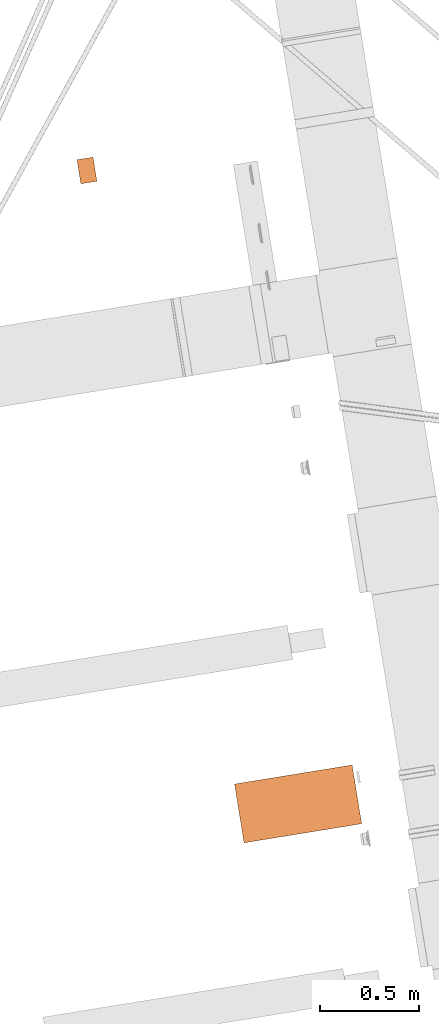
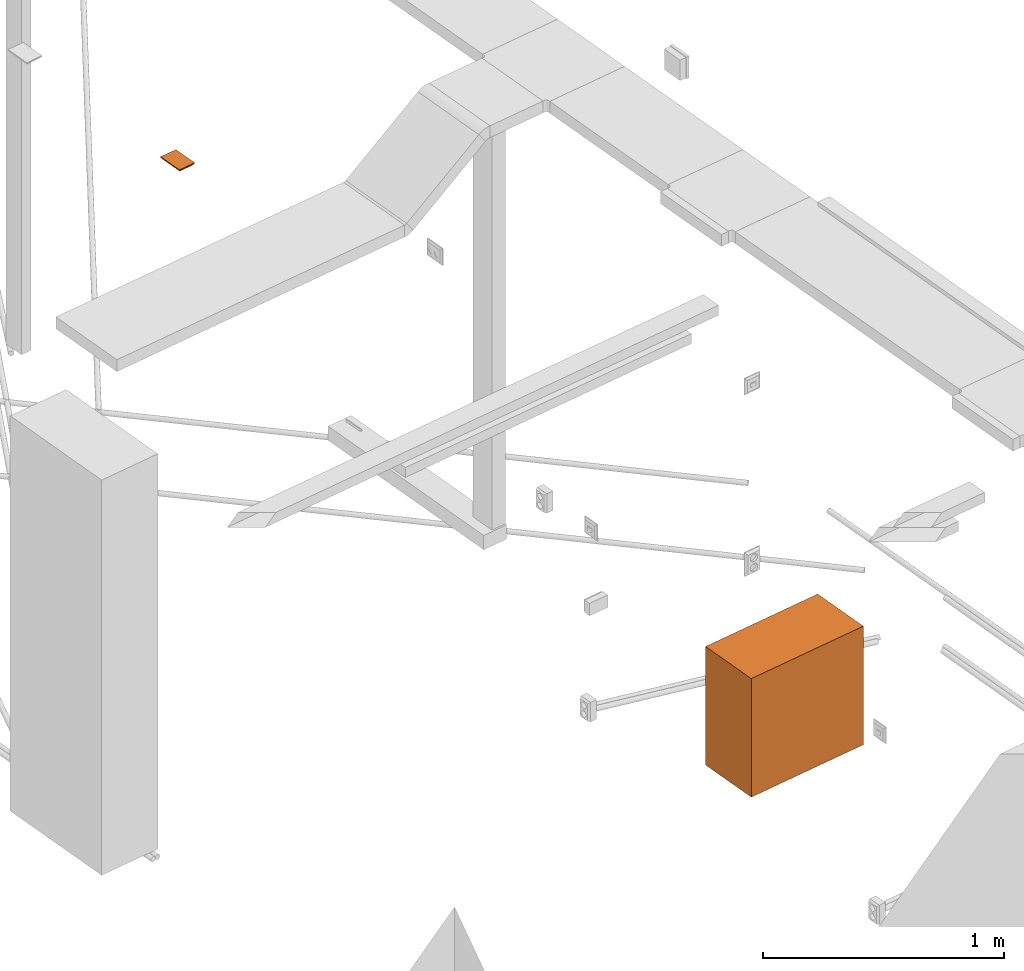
# One storey, part 10 of 33: 2 proxies.
"""IFC2X3 building model written with IfcOpenShell, lengths in millimetres."""

from ifc_helpers import new_model, entity, si_unit, converted_unit, derived_unit, direction, frame, origin, origin_with_axes, origin_2d_with_axis, place, context, subcontext, project, spatial, rectangle, extrude, faceted_brep, source, transform, mapped, material, type_object, element, save


model = new_model("IFC2X3")

# Units and contexts
plan_context = context("Plan", 3, precision=1e-05, world=origin_with_axes())
model_context = context("Model", 3, precision=0.01, world=origin(), true_north=direction((6.12323399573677e-17, 1.0)))
body_context = subcontext(model_context, "Body", "Model", "MODEL_VIEW")
ifc_project = project(units=[converted_unit("PLANEANGLEUNIT", "DEGREE", entity("IfcPositiveLengthMeasure", 0.0174532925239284), si_unit("PLANEANGLEUNIT", "RADIAN"), dimensions=[0, 0, 0, 0, 0, 0, 0]), si_unit("AREAUNIT", "SQUARE_METRE"), si_unit("LENGTHUNIT", "METRE", prefix="MILLI"), si_unit("MASSUNIT", "GRAM", prefix="KILO"), si_unit("POWERUNIT", "WATT"), si_unit("PRESSUREUNIT", "PASCAL", prefix="KILO"), si_unit("FORCEUNIT", "NEWTON", prefix="KILO"), si_unit("ELECTRICVOLTAGEUNIT", "VOLT"), si_unit("ELECTRICCURRENTUNIT", "AMPERE"), si_unit("THERMODYNAMICTEMPERATUREUNIT", "DEGREE_CELSIUS"), si_unit("TIMEUNIT", "SECOND"), si_unit("VOLUMEUNIT", "CUBIC_METRE"), derived_unit("LINEARVELOCITYUNIT", [(si_unit("LENGTHUNIT", "METRE"), 1), (si_unit("TIMEUNIT", "SECOND"), -1)]), derived_unit("VOLUMETRICFLOWRATEUNIT", [(si_unit("VOLUMEUNIT", "CUBIC_METRE"), 1), (si_unit("TIMEUNIT", "SECOND"), -1)]), derived_unit("THERMALTRANSMITTANCEUNIT", [(si_unit("POWERUNIT", "WATT"), 1), (si_unit("THERMODYNAMICTEMPERATUREUNIT", "KELVIN"), -1), (si_unit("AREAUNIT", "SQUARE_METRE"), -1)]), derived_unit("SOUNDPRESSUREUNIT", [(si_unit("PRESSUREUNIT", "PASCAL"), 1)])], contexts=[model_context, plan_context])

# Site, building, storey
site_placement = place(None, frame((-0.219946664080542, 0.12226179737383, 0.0), z_axis=(0.0, 0.0, 1.0), x_axis=(-0.160236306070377, 0.987078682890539, 0.0)))
site = spatial("IfcSite", under=ifc_project, at=site_placement, Name="Default", CompositionType="ELEMENT")
building_placement = place(site_placement, origin_with_axes())
building = spatial("IfcBuilding", under=site, at=building_placement, CompositionType="ELEMENT")
storey_placement = place(building_placement, frame((0.0, 0.0, 59000.0), z_axis=(0.0, 0.0, 1.0), x_axis=(1.0, 0.0, 0.0)))
storey = spatial("IfcBuildingStorey", under=building, at=storey_placement, Name="Nivå F", CompositionType="ELEMENT", Elevation=59000.0)

# Proxies
ifc_material = material(Name="<Unnamed>")
building_element_proxy_type_1 = type_object("IfcBuildingElementProxyType", Name="El-ford-stativ:El-ford-stativ_001", PredefinedType="NOTDEFINED", material=ifc_material)
shared_shape_1 = source(origin(), body_context, "Body", "SweptSolid", [
    extrude(rectangle(XDim=300.000011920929, YDim=600.000023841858, at=origin_2d_with_axis()), frame((0.0, 150.000005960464, 0.0), z_axis=(0.0, 0.0, 1.0), x_axis=(0.0, 1.0, 0.0)), (0.0, 0.0, 1.0), 600.000023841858),
])
proxy_1_placement = place(storey_placement, frame((768943.619644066, -503502.476355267, 999.999988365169), z_axis=(0.0, 0.0, 1.0), x_axis=(0.0, 1.0, 0.0)))
element("IfcBuildingElementProxy", 1, at=proxy_1_placement, inside=storey, type_object=building_element_proxy_type_1, material=ifc_material, Name="El-ford-stativ:El-ford-stativ_001", ObjectType="El-ford-stativ:El-ford-stativ_001", context=body_context, shape_type="MappedRepresentation", body=[
    mapped(shared_shape_1, transform((0.0, 0.0, 0.0), scale=1.0)),
])
building_element_proxy_type_2 = type_object("IfcBuildingElementProxyType", Name="Dobbel stikk i tak m_boks 2P+J PH:Earthed reces socket c2", PredefinedType="NOTDEFINED", material=ifc_material)
shared_shape_2 = source(origin(), body_context, "Body", "Brep", [
    faceted_brep([(25.250000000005, -18.3000000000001, -17.8944271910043), (25.250000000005, -18.5954451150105, -17.489897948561), (25.250000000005, -18.7000000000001, -17.0), (25.250000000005, -18.7000000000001, -5.0), (25.250000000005, -19.5000000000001, -5.0), (25.250000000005, -19.5000000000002, -17.0), (25.250000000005, -18.9142135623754, -18.4142135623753), (25.250000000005, -17.5000000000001, -19.0), (25.250000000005, -17.5000000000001, -11.0), (25.250000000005, -18.3000000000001, -11.0), (24.250000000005, -19.5000000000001, -5.0), (24.250000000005, -18.7000000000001, -5.0), (24.250000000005, -18.7000000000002, -17.0), (24.250000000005, -18.5954451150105, -17.489897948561), (24.250000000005, -18.3000000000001, -17.8944271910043), (24.250000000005, -18.3000000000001, -11.0), (24.250000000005, -17.5000000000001, -11.0), (24.250000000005, -17.5000000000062, -19.0), (24.250000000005, -18.9142135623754, -18.4142135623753), (24.250000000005, -19.5000000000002, -17.0)], [[[0, 1, 2, 3, 4, 5, 6, 7, 8, 9]], [[10, 11, 12, 13, 14, 15, 16, 17, 18, 19]], [[11, 10, 4, 3]], [[12, 11, 3, 2]], [[2, 1, 13, 12]], [[0, 14, 13, 1]], [[15, 14, 0, 9]], [[16, 15, 9, 8]], [[17, 16, 8, 7]], [[17, 7, 6, 18]], [[6, 5, 19, 18]], [[10, 19, 5, 4]]]),
    faceted_brep([(24.250000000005, 18.3000000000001, -17.8944271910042), (24.250000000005, 18.5954451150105, -17.4898979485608), (24.250000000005, 18.7000000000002, -17.0), (24.250000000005, 18.7000000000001, -5.0), (24.250000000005, 19.5000000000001, -5.0), (24.250000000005, 19.5000000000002, -17.0), (24.250000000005, 18.9142135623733, -18.4142135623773), (24.250000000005, 17.5000000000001, -19.0), (24.250000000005, 17.5000000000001, -11.0), (24.250000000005, 18.3000000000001, -11.0), (25.250000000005, 19.5000000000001, -5.0), (25.250000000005, 18.7000000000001, -5.0), (25.250000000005, 18.7000000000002, -17.0), (25.250000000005, 18.5954451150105, -17.4898979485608), (25.250000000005, 18.3000000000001, -17.8944271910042), (25.250000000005, 18.3000000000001, -11.0), (25.250000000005, 17.5000000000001, -11.0), (25.250000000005, 17.5000000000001, -19.0), (25.250000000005, 18.9142135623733, -18.4142135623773), (25.250000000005, 19.5000000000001, -17.0)], [[[0, 1, 2, 3, 4, 5, 6, 7, 8, 9]], [[10, 11, 12, 13, 14, 15, 16, 17, 18, 19]], [[9, 8, 16, 15]], [[0, 9, 15, 14]], [[14, 13, 1, 0]], [[12, 2, 1, 13]], [[3, 2, 12, 11]], [[4, 3, 11, 10]], [[5, 4, 10, 19]], [[5, 19, 18, 6]], [[18, 17, 7, 6]], [[8, 7, 17, 16]]]),
    faceted_brep([(-25.249999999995, 18.9142135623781, -18.4142135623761), (-25.249999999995, 19.5000000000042, -17.0), (-25.249999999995, 19.5000000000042, -5.0), (-25.249999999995, 18.7000000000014, -5.0), (-25.249999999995, 18.7000000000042, -17.0), (-25.249999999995, 18.5954451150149, -17.4898979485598), (-25.249999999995, 18.3000000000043, -17.8944271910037), (-25.249999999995, 18.3000000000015, -11.0), (-25.249999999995, 17.5000000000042, -11.0), (-25.249999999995, 17.5000000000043, -19.0), (-26.249999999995, 19.5000000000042, -5.0), (-26.249999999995, 19.5000000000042, -17.0), (-26.249999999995, 18.9142135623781, -18.4142135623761), (-26.249999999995, 17.5000000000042, -19.0), (-26.249999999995, 17.5000000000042, -11.0), (-26.249999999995, 18.3000000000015, -11.0), (-26.249999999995, 18.3000000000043, -17.8944271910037), (-26.249999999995, 18.5954451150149, -17.4898979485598), (-26.249999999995, 18.7000000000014, -17.0), (-26.249999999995, 18.7000000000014, -5.0)], [[[0, 1, 2, 3, 4, 5, 6, 7, 8, 9]], [[10, 11, 12, 13, 14, 15, 16, 17, 18, 19]], [[11, 10, 2, 1]], [[11, 1, 0, 12]], [[0, 9, 13, 12]], [[14, 13, 9, 8]], [[16, 15, 7, 6]], [[6, 5, 17, 16]], [[4, 18, 17, 5]], [[19, 18, 4, 3]], [[10, 19, 3, 2]], [[15, 14, 8, 7]]]),
    faceted_brep([(-26.249999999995, -17.4999999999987, -5.0), (-26.249999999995, -17.4999999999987, -19.0), (-26.249999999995, -18.9142135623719, -18.4142135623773), (-26.249999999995, -19.4999999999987, -17.0), (-26.249999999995, -19.4999999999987, -11.0), (-26.249999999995, -18.6999999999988, -11.0), (-26.249999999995, -18.6999999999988, -17.0), (-26.249999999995, -18.5954451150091, -17.4898979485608), (-26.249999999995, -18.2999999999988, -17.8944271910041), (-26.249999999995, -18.2999999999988, -5.0), (-25.249999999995, -17.4999999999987, -19.0), (-25.249999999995, -17.4999999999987, -5.0), (-25.249999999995, -18.2999999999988, -5.0), (-25.249999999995, -18.2999999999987, -17.8944271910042), (-25.249999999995, -18.5954451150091, -17.4898979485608), (-25.249999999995, -18.6999999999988, -17.0), (-25.249999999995, -18.6999999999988, -11.0), (-25.249999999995, -19.4999999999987, -11.0), (-25.249999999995, -19.4999999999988, -17.0), (-25.249999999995, -18.9142135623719, -18.4142135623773)], [[[0, 1, 2, 3, 4, 5, 6, 7, 8, 9]], [[10, 11, 12, 13, 14, 15, 16, 17, 18, 19]], [[1, 0, 11, 10]], [[10, 19, 2, 1]], [[2, 19, 18, 3]], [[4, 3, 18, 17]], [[5, 4, 17, 16]], [[6, 5, 16, 15]], [[14, 7, 6, 15]], [[13, 8, 7, 14]], [[9, 8, 13, 12]], [[0, 9, 12, 11]]]),
    faceted_brep([(15.7500000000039, -2.5, -5.0), (16.3750000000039, -1.875, -5.0), (17.0, -1.25, -5.0), (17.6250000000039, -0.625000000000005, -5.0), (18.2500000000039, 0.0, -5.0), (17.7008289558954, 0.54917104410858, -5.0), (17.0, 1.25, -5.0), (16.375000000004, 1.875, -5.0), (15.750000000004, 2.5, -5.0), (15.125000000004, 1.87500000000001, -5.0), (14.500000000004, 1.25000000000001, -5.0), (13.8750000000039, 0.625000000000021, -5.0), (13.2500000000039, 0.0, -5.0), (13.7991710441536, -0.549171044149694, -5.0), (14.5000000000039, -1.25, -5.0), (15.1250000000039, -1.875, -5.0), (17.7008289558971, -0.549171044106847, -5.20000000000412), (17.1516579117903, -1.09834208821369, -5.20000000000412), (16.4508289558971, -1.79917104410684, -5.20000000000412), (15.7500000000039, -2.5, -5.20000000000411), (15.1250000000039, -1.875, -5.20000000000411), (14.5000000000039, -1.25, -5.20000000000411), (13.8750000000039, -0.625, -5.20000000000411), (13.2500000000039, 0.0, -5.2000000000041), (13.7991710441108, 0.54917104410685, -5.20000000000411), (14.3483420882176, 1.09834208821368, -5.20000000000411), (15.0491710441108, 1.79917104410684, -5.20000000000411), (15.750000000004, 2.5, -5.20000000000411), (16.375000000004, 1.875, -5.20000000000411), (17.0, 1.25, -5.20000000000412), (17.6250000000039, 0.624999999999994, -5.20000000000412), (18.2500000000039, 0.0, -5.20000000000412)], [[[0, 1, 2, 3, 4, 5, 6, 7, 8, 9, 10, 11, 12, 13, 14, 15]], [[16, 17, 18, 19, 20, 21, 22, 23, 24, 25, 26, 27, 28, 29, 30, 31]], [[29, 28, 27, 8, 7, 6, 5, 4, 31, 30]], [[8, 27, 26, 25, 24, 23, 12, 11, 10, 9]], [[21, 20, 19, 0, 15, 14, 13, 12, 23, 22]], [[0, 19, 18, 17, 16, 31, 4, 3, 2, 1]]]),
    faceted_brep([(35.0491710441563, -1.79917104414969, -5.20000000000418), (34.348342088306, -1.09834208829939, -5.20000000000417), (33.7991710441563, -0.549171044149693, -5.20000000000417), (33.2500000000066, 0.0, -5.20000000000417), (33.8750000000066, 0.625000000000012, -5.20000000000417), (34.5000000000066, 1.25000000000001, -5.20000000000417), (35.1250000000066, 1.875, -5.20000000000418), (35.7500000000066, 2.5, -5.20000000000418), (36.450828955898, 1.79917104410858, -5.20000000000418), (37.1516579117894, 1.09834208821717, -5.20000000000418), (37.700828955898, 0.54917104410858, -5.20000000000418), (38.2500000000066, 0.0, -5.20000000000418), (37.6250000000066, -0.625000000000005, -5.20000000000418), (37.0, -1.25, -5.20000000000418), (36.3750000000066, -1.875, -5.20000000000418), (35.7500000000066, -2.5, -5.20000000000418), (35.1250000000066, 1.87500000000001, -5.0), (34.5000000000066, 1.25000000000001, -5.0), (33.7991710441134, 0.549171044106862, -5.0), (33.2500000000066, 0.0, -5.0), (33.8750000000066, -0.625, -5.0), (34.5000000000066, -1.25, -5.0), (35.1250000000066, -1.875, -5.0), (35.7500000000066, -2.5, -5.0), (36.3750000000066, -1.875, -5.0), (37.0, -1.25, -5.0), (37.7008289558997, -0.549171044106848, -5.0), (38.2500000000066, 0.0, -5.0), (37.6250000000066, 0.624999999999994, -5.0), (37.0, 1.25, -5.0), (36.3750000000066, 1.875, -5.0), (35.7500000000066, 2.5, -5.0)], [[[0, 1, 2, 3, 4, 5, 6, 7, 8, 9, 10, 11, 12, 13, 14, 15]], [[16, 17, 18, 19, 20, 21, 22, 23, 24, 25, 26, 27, 28, 29, 30, 31]], [[30, 29, 28, 27, 11, 10, 9, 8, 7, 31]], [[31, 7, 6, 5, 4, 3, 19, 18, 17, 16]], [[22, 21, 20, 19, 3, 2, 1, 0, 15, 23]], [[23, 15, 14, 13, 12, 11, 27, 26, 25, 24]]]),
    faceted_brep([(-36.3749999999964, 1.87500000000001, -5.0), (-37.0, 1.25000000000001, -5.0), (-37.6249999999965, 0.625000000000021, -5.0), (-38.2499999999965, 0.0, -5.0), (-37.7008289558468, -0.549171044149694, -5.0), (-37.0, -1.25, -5.0), (-36.3749999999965, -1.875, -5.0), (-35.7499999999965, -2.5, -5.0), (-35.1249999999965, -1.875, -5.0), (-34.4999999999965, -1.25, -5.0), (-33.8749999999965, -0.625000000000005, -5.0), (-33.2499999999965, 0.0, -5.0), (-33.799171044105, 0.54917104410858, -5.0), (-34.4999999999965, 1.25, -5.0), (-35.1249999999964, 1.875, -5.0), (-35.7499999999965, 2.5, -5.0), (-36.3749999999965, -1.875, -5.20000000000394), (-37.0, -1.25, -5.20000000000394), (-37.6249999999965, -0.625, -5.20000000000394), (-38.2499999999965, 0.0, -5.20000000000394), (-37.7008289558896, 0.54917104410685, -5.20000000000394), (-37.1516579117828, 1.09834208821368, -5.20000000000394), (-36.4508289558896, 1.79917104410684, -5.20000000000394), (-35.7499999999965, 2.5, -5.20000000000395), (-35.1249999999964, 1.875, -5.20000000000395), (-34.4999999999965, 1.25, -5.20000000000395), (-33.8749999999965, 0.624999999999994, -5.20000000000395), (-33.2499999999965, 0.0, -5.20000000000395), (-33.7991710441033, -0.549171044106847, -5.20000000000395), (-34.3483420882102, -1.09834208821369, -5.20000000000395), (-35.0491710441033, -1.79917104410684, -5.20000000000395), (-35.7499999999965, -2.5, -5.20000000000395)], [[[0, 1, 2, 3, 4, 5, 6, 7, 8, 9, 10, 11, 12, 13, 14, 15]], [[16, 17, 18, 19, 20, 21, 22, 23, 24, 25, 26, 27, 28, 29, 30, 31]], [[25, 24, 23, 15, 14, 13, 12, 11, 27, 26]], [[15, 23, 22, 21, 20, 19, 3, 2, 1, 0]], [[17, 16, 31, 7, 6, 5, 4, 3, 19, 18]], [[7, 31, 30, 29, 28, 27, 11, 10, 9, 8]]]),
    faceted_brep([(-16.4508289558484, -1.79917104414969, -5.20000000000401), (-17.1516579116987, -1.09834208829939, -5.20000000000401), (-17.7008289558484, -0.549171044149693, -5.200000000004), (-18.2499999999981, 0.0, -5.200000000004), (-17.6249999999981, 0.625000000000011, -5.200000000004), (-17.0, 1.25000000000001, -5.20000000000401), (-16.3749999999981, 1.875, -5.20000000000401), (-15.7499999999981, 2.5, -5.20000000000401), (-15.0491710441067, 1.79917104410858, -5.20000000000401), (-14.3483420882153, 1.09834208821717, -5.20000000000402), (-13.7991710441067, 0.549171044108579, -5.20000000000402), (-13.2499999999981, 0.0, -5.20000000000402), (-13.8749999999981, -0.625000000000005, -5.20000000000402), (-14.4999999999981, -1.25, -5.20000000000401), (-15.1249999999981, -1.875, -5.20000000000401), (-15.7499999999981, -2.5, -5.20000000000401), (-16.3749999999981, 1.87500000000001, -5.0), (-17.0, 1.25000000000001, -5.0), (-17.7008289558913, 0.549171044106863, -5.0), (-18.2499999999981, 0.0, -5.0), (-17.6249999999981, -0.625, -5.0), (-17.0, -1.25, -5.0), (-16.3749999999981, -1.875, -5.0), (-15.7499999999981, -2.5, -5.0), (-15.1249999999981, -1.875, -5.0), (-14.4999999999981, -1.25, -5.0), (-13.799171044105, -0.549171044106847, -5.0), (-13.2499999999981, 0.0, -5.0), (-13.8749999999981, 0.624999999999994, -5.0), (-14.4999999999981, 1.25, -5.0), (-15.1249999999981, 1.875, -5.0), (-15.7499999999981, 2.5, -5.0)], [[[0, 1, 2, 3, 4, 5, 6, 7, 8, 9, 10, 11, 12, 13, 14, 15]], [[16, 17, 18, 19, 20, 21, 22, 23, 24, 25, 26, 27, 28, 29, 30, 31]], [[30, 29, 28, 27, 11, 10, 9, 8, 7, 31]], [[31, 7, 6, 5, 4, 3, 19, 18, 17, 16]], [[22, 21, 20, 19, 3, 2, 1, 0, 15, 23]], [[23, 15, 14, 13, 12, 11, 27, 26, 25, 24]]]),
    faceted_brep([(-51.5000000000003, -31.0, -17.0), (-35.7500000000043, -17.3205080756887, -17.0), (-30.9263809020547, -19.3185165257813, -17.0), (-39.8921356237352, -14.1421356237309, -17.0), (-25.750000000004, -20.0, -17.0), (-20.5736190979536, -19.3185165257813, -17.0), (20.5736190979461, -19.3185165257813, -17.0), (-43.070508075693, -10.0, -17.0), (-45.0685165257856, -5.1763809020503, -17.0), (-45.7500000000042, 0.0, -17.0), (51.5000000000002, -31.0, -17.0), (-51.5000000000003, 31.0, -17.0), (-45.0685165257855, 5.17638090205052, -17.0), (-43.0705080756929, 10.0, -17.0), (-39.892135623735, 14.142135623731, -17.0), (-35.7500000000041, 17.3205080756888, -17.0), (-30.9263809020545, 19.3185165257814, -17.0), (-25.7500000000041, 20.0, -17.0), (-20.5736190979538, 19.3185165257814, -17.0), (20.5736190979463, 19.3185165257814, -17.0), (51.5000000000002, 31.0, -17.0), (25.7499999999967, 20.0, -17.0), (30.926380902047, 19.3185165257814, -17.0), (35.7499999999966, 17.3205080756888, -17.0), (39.8921356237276, 14.142135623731, -17.0), (43.0705080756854, 10.0, -17.0), (45.068516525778, 5.1763809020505, -17.0), (45.7499999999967, 0.0, -17.0), (25.7499999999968, -20.0, -17.0), (30.9263809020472, -19.3185165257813, -17.0), (35.7499999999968, -17.3205080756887, -17.0), (39.8921356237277, -14.1421356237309, -17.0), (43.0705080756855, -10.0, -17.0), (45.0685165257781, -5.17638090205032, -17.0), (15.7499999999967, 17.3205080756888, -17.0), (-15.7500000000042, 17.3205080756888, -17.0), (11.6078643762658, 14.142135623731, -17.0), (-11.6078643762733, 14.142135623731, -17.0), (8.42949192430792, 10.0, -17.0), (-8.42949192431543, 10.0, -17.0), (6.4314834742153, 5.17638090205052, -17.0), (-6.43148347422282, 5.1763809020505, -17.0), (-5.75000000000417, 0.0, -17.0), (5.74999999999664, 0.0, -17.0), (6.43148347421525, -5.1763809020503, -17.0), (-6.43148347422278, -5.17638090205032, -17.0), (-8.42949192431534, -10.0, -17.0), (8.42949192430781, -10.0, -17.0), (-11.6078643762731, -14.1421356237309, -17.0), (11.6078643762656, -14.1421356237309, -17.0), (-15.7500000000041, -17.3205080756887, -17.0), (15.7499999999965, -17.3205080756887, -17.0), (61.5000000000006, -41.0, -5.0), (35.7499999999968, -17.3205080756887, -5.0), (30.9263809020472, -19.3185165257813, -5.0), (39.8921356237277, -14.1421356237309, -5.0), (25.7499999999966, -20.0, -5.0), (20.5736190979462, -19.3185165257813, -5.0), (-20.5736190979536, -19.3185165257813, -5.0), (43.0705080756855, -10.0, -5.0), (45.0685165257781, -5.17638090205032, -5.0), (45.7499999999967, 0.0, -5.0), (-61.5000000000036, -41.0, -5.0), (61.5000000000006, 41.0, -5.0), (45.068516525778, 5.1763809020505, -5.0), (43.0705080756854, 10.0, -5.0), (39.8921356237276, 14.142135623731, -5.0), (35.7499999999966, 17.3205080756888, -5.0), (30.9263809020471, 19.3185165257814, -5.0), (25.7499999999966, 20.0, -5.0), (20.5736190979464, 19.3185165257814, -5.0), (-20.5736190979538, 19.3185165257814, -5.0), (-61.5000000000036, 41.0, -5.0), (-25.7500000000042, 20.0, -5.0), (-30.9263809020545, 19.3185165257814, -5.0), (-35.750000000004, 17.3205080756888, -5.0), (-39.892135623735, 14.142135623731, -5.0), (-43.0705080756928, 10.0, -5.0), (-45.0685165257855, 5.17638090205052, -5.0), (-45.7500000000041, 0.0, -5.0), (-25.7500000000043, -20.0, -5.0), (-30.9263809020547, -19.3185165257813, -5.0), (-35.7500000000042, -17.3205080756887, -5.0), (-39.8921356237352, -14.1421356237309, -5.0), (-43.070508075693, -10.0, -5.0), (-45.0685165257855, -5.1763809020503, -5.0), (-15.7500000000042, 17.3205080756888, -5.0), (15.7499999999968, 17.3205080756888, -5.0), (-11.6078643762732, 14.142135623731, -5.0), (11.6078643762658, 14.142135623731, -5.0), (-8.4294919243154, 10.0, -5.0), (8.42949192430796, 10.0, -5.0), (-6.43148347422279, 5.1763809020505, -5.0), (6.43148347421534, 5.17638090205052, -5.0), (5.74999999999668, 0.0, -5.0), (-5.75000000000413, 0.0, -5.0), (-6.43148347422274, -5.17638090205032, -5.0), (6.43148347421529, -5.1763809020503, -5.0), (8.42949192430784, -10.0, -5.0), (-8.4294919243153, -10.0, -5.0), (11.6078643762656, -14.1421356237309, -5.0), (-11.6078643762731, -14.1421356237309, -5.0), (15.7499999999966, -17.3205080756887, -5.0), (-15.750000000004, -17.3205080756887, -5.0)], [[[0, 1, 2]], [[1, 0, 3]], [[0, 2, 4]], [[4, 5, 0]], [[0, 5, 6]], [[7, 3, 0]], [[8, 7, 0]], [[0, 9, 8]], [[6, 10, 0]], [[9, 0, 11]], [[12, 9, 11]], [[13, 12, 11]], [[11, 14, 13]], [[14, 11, 15]], [[15, 11, 16]], [[17, 16, 11]], [[18, 17, 11]], [[11, 19, 18]], [[19, 11, 20]], [[21, 19, 20]], [[20, 22, 21]], [[22, 20, 23]], [[24, 23, 20]], [[24, 20, 25]], [[26, 25, 20]], [[27, 26, 20]], [[27, 20, 10]], [[6, 28, 10]], [[29, 10, 28]], [[10, 29, 30]], [[10, 30, 31]], [[31, 32, 10]], [[32, 33, 10]], [[10, 33, 27]], [[19, 34, 18]], [[35, 18, 34]], [[36, 35, 34]], [[37, 35, 36]], [[36, 38, 37]], [[39, 37, 38]], [[38, 40, 39]], [[41, 39, 40]], [[40, 42, 41]], [[42, 40, 43]], [[43, 44, 42]], [[45, 42, 44]], [[46, 45, 44]], [[44, 47, 46]], [[48, 46, 47]], [[47, 49, 48]], [[50, 48, 49]], [[51, 50, 49]], [[5, 50, 51]], [[51, 6, 5]], [[52, 53, 54]], [[53, 52, 55]], [[52, 54, 56]], [[56, 57, 52]], [[52, 57, 58]], [[59, 55, 52]], [[60, 59, 52]], [[52, 61, 60]], [[58, 62, 52]], [[61, 52, 63]], [[64, 61, 63]], [[65, 64, 63]], [[63, 66, 65]], [[66, 63, 67]], [[67, 63, 68]], [[69, 68, 63]], [[70, 69, 63]], [[70, 63, 71]], [[63, 72, 71]], [[73, 71, 72]], [[72, 74, 73]], [[74, 72, 75]], [[76, 75, 72]], [[76, 72, 77]], [[78, 77, 72]], [[79, 78, 72]], [[79, 72, 62]], [[58, 80, 62]], [[81, 62, 80]], [[62, 81, 82]], [[62, 82, 83]], [[83, 84, 62]], [[84, 85, 62]], [[62, 85, 79]], [[86, 70, 71]], [[86, 87, 70]], [[88, 87, 86]], [[89, 87, 88]], [[88, 90, 89]], [[91, 89, 90]], [[90, 92, 91]], [[93, 91, 92]], [[92, 94, 93]], [[94, 92, 95]], [[95, 96, 94]], [[97, 94, 96]], [[98, 97, 96]], [[96, 99, 98]], [[100, 98, 99]], [[99, 101, 100]], [[102, 100, 101]], [[103, 102, 101]], [[103, 57, 102]], [[58, 57, 103]], [[20, 63, 52, 10]], [[11, 72, 63, 20]], [[0, 62, 72, 11]], [[10, 52, 62, 0]], [[73, 17, 18, 71]], [[71, 18, 35, 86]], [[90, 88, 37, 39]], [[37, 88, 86, 35]], [[92, 90, 39, 41]], [[92, 41, 42, 95]], [[95, 42, 45, 96]], [[96, 45, 46, 99]], [[103, 101, 48, 50]], [[48, 101, 99, 46]], [[58, 103, 50, 5]], [[58, 5, 4, 80]], [[80, 4, 2, 81]], [[81, 2, 1, 82]], [[84, 83, 3, 7]], [[3, 83, 82, 1]], [[85, 84, 7, 8]], [[85, 8, 9, 79]], [[79, 9, 12, 78]], [[78, 12, 13, 77]], [[75, 76, 14, 15]], [[14, 76, 77, 13]], [[74, 75, 15, 16]], [[74, 16, 17, 73]], [[69, 21, 22, 68]], [[68, 22, 23, 67]], [[65, 66, 24, 25]], [[23, 24, 66, 67]], [[64, 65, 25, 26]], [[27, 61, 64, 26]], [[60, 33, 32, 59]], [[59, 32, 31, 55]], [[54, 53, 30, 29]], [[31, 30, 53, 55]], [[56, 54, 29, 28]], [[60, 61, 27, 33]], [[56, 28, 6, 57]], [[57, 6, 51, 102]], [[98, 100, 49, 47]], [[51, 49, 100, 102]], [[97, 98, 47, 44]], [[43, 94, 97, 44]], [[93, 40, 38, 91]], [[91, 38, 36, 89]], [[70, 87, 34, 19]], [[36, 34, 87, 89]], [[69, 70, 19, 21]], [[93, 94, 43, 40]]]),
    faceted_brep([(61.5000000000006, -41.0, 0.0), (61.5000000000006, 41.0, 0.0), (-61.5000000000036, 41.0, 0.0), (-61.5000000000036, -41.0, 0.0), (61.5000000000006, -41.0, -5.0), (-61.5000000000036, -41.0, -5.0), (-61.5000000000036, 41.0, -5.0), (61.5000000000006, 41.0, -5.0)], [[[0, 1, 2, 3]], [[4, 5, 6, 7]], [[1, 0, 4, 7]], [[2, 1, 7, 6]], [[3, 2, 6, 5]], [[0, 3, 5, 4]]]),
])
proxy_2_placement = place(storey_placement, frame((772112.388455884, -502963.994469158, 2450.0), z_axis=(0.0, 0.0, 1.0), x_axis=(1.0, 0.0, 0.0)))
element("IfcBuildingElementProxy", 2, at=proxy_2_placement, inside=storey, type_object=building_element_proxy_type_2, material=ifc_material, Name="Dobbel stikk i tak m_boks 2P+J PH:Earthed reces socket c2", ObjectType="Dobbel stikk i tak m_boks 2P+J PH:Earthed reces socket c2", context=body_context, shape_type="MappedRepresentation", body=[
    mapped(shared_shape_2, transform((0.0, 0.0, 0.0), scale=1.0)),
])

save(model, "model.ifc")
